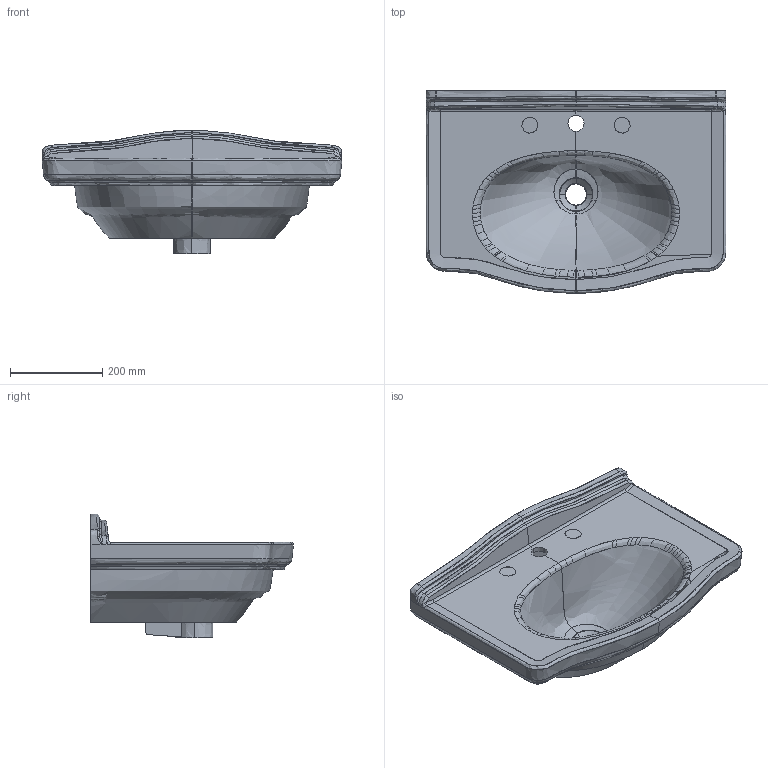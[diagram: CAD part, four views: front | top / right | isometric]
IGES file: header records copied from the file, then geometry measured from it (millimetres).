
Start section: START RECORD GO HERE.
Global section: file name: 8432M_Lavabo Ethos 65.igs; native system: DASSAULT SYSTEMES CATIA V5 R19 - www.3ds.com; preprocessor: CATIA Version 5 Release 19 SP 5 ; author: gioge; organization: LAPTOP-G94B6G74; date: 20200630.150042; units: millimetre
Bounding box: 650.33 x 439.87 x 268.12 mm (x, y, z)
Surface area: 1036640.4 mm2 (no closed solid volume)
Topology: 0 solids, 0 shells, 204 faces, 1177 edges, 1176 vertices
Faces by surface type: bspline 154, plane 22, revolution 14, extrusion 14
